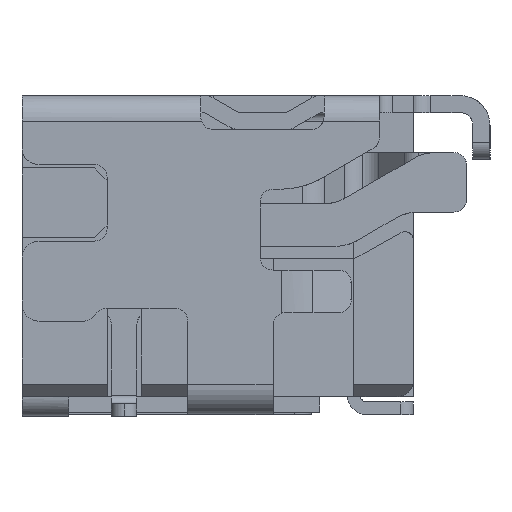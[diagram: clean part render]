
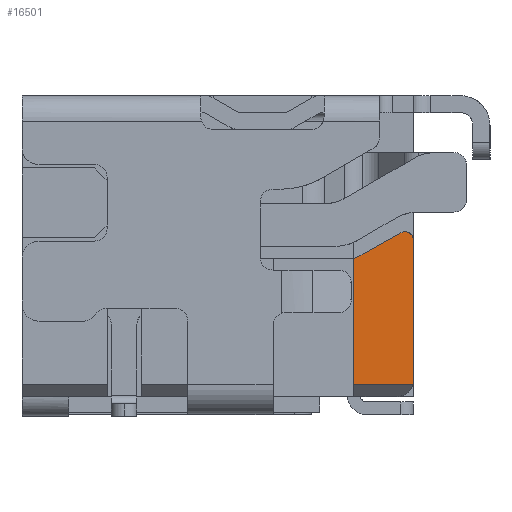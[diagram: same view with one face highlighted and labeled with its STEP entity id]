
A CAD part, left-side view. The second image highlights one B-rep face of the part: STEP entity #16501.
In plain terms, the highlighted planar face has unit normal (-1, 0, 0).
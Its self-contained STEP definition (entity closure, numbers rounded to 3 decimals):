
#3066 = CARTESIAN_POINT ( 'NONE',  ( -5.475, 0.012, 2.098 ) ) ;
#3547 = FACE_OUTER_BOUND ( 'NONE', #26636, .T. ) ;
#4544 = DIRECTION ( 'NONE',  ( 0., 1., 0. ) ) ;
#5639 = DIRECTION ( 'NONE',  ( 0., -1., 0. ) ) ;
#6540 = CARTESIAN_POINT ( 'NONE',  ( -5.475, 0.7, 0.36 ) ) ;
#7147 = CARTESIAN_POINT ( 'NONE',  ( -5.475, 0.332, 2.034 ) ) ;
#7869 = CARTESIAN_POINT ( 'NONE',  ( -5.475, 0.02, 2.11 ) ) ;
#7886 = CARTESIAN_POINT ( 'NONE',  ( -5.475, 0.133, 2.144 ) ) ;
#8250 = ORIENTED_EDGE ( 'NONE', *, *, #55446, .T. ) ;
#10640 = VERTEX_POINT ( 'NONE', #22817 ) ;
#11767 = ORIENTED_EDGE ( 'NONE', *, *, #19992, .F. ) ;
#12072 = B_SPLINE_CURVE_WITH_KNOTS ( 'NONE', 3,
 ( #16799, #58169, #58742, #49461 ),
 .UNSPECIFIED., .F., .F.,
 ( 4, 4 ),
 ( 0., 1. ),
 .UNSPECIFIED. ) ;
#12200 = DIRECTION ( 'NONE',  ( 0., 0., -1. ) ) ;
#12661 = CARTESIAN_POINT ( 'NONE',  ( -5.475, 0.046, 2.137 ) ) ;
#14610 = B_SPLINE_CURVE_WITH_KNOTS ( 'NONE', 3,
 ( #24952, #34240, #7886, #57960 ),
 .UNSPECIFIED., .F., .F.,
 ( 4, 4 ),
 ( 0., 1. ),
 .UNSPECIFIED. ) ;
#15337 = VECTOR ( 'NONE', #30709, 1000. ) ;
#15824 = CARTESIAN_POINT ( 'NONE',  ( -5.475, 0.516, 1.932 ) ) ;
#16107 = CARTESIAN_POINT ( 'NONE',  ( -5.475, 0.7, 1.83 ) ) ;
#16501 = ADVANCED_FACE ( 'NONE', ( #3547 ), #23690, .T. ) ;
#16758 = VERTEX_POINT ( 'NONE', #39866 ) ;
#16799 = CARTESIAN_POINT ( 'NONE',  ( -5.475, 0.006, 0.36 ) ) ;
#17232 = ORIENTED_EDGE ( 'NONE', *, *, #20706, .T. ) ;
#19992 = EDGE_CURVE ( 'NONE', #10640, #31515, #22478, .T. ) ;
#20584 = CARTESIAN_POINT ( 'NONE',  ( -5.475, 0.149, 2.136 ) ) ;
#20706 = EDGE_CURVE ( 'NONE', #16758, #50776, #37558, .T. ) ;
#21248 = EDGE_CURVE ( 'NONE', #31495, #16758, #57713, .T. ) ;
#21641 = CARTESIAN_POINT ( 'NONE',  ( -5.475, 0., 2.062 ) ) ;
#21805 = CARTESIAN_POINT ( 'NONE',  ( -5.475, 0.149, 2.136 ) ) ;
#22478 = B_SPLINE_CURVE_WITH_KNOTS ( 'NONE', 3,
 ( #16107, #15824, #7147, #20584 ),
 .UNSPECIFIED., .F., .F.,
 ( 4, 4 ),
 ( 0., 1. ),
 .UNSPECIFIED. ) ;
#22817 = CARTESIAN_POINT ( 'NONE',  ( -5.475, 0.7, 1.83 ) ) ;
#23690 = PLANE ( 'NONE',  #57743 ) ;
#24248 = ORIENTED_EDGE ( 'NONE', *, *, #21248, .T. ) ;
#24719 = VERTEX_POINT ( 'NONE', #55586 ) ;
#24952 = CARTESIAN_POINT ( 'NONE',  ( -5.475, 0.1, 2.149 ) ) ;
#26135 = CARTESIAN_POINT ( 'NONE',  ( -5.475, 0.1, 2.149 ) ) ;
#26434 = CARTESIAN_POINT ( 'NONE',  ( -5.475, 0.002, 2.075 ) ) ;
#26636 = EDGE_LOOP ( 'NONE', ( #11767, #39774, #59264, #43713, #24248, #17232, #8250 ) ) ;
#27214 = VERTEX_POINT ( 'NONE', #6540 ) ;
#30704 = LINE ( 'NONE', #39115, #53300 ) ;
#30709 = DIRECTION ( 'NONE',  ( 0., 0., 1. ) ) ;
#30927 = CARTESIAN_POINT ( 'NONE',  ( -5.475, 0.073, 2.148 ) ) ;
#31495 = VERTEX_POINT ( 'NONE', #34685 ) ;
#31515 = VERTEX_POINT ( 'NONE', #21805 ) ;
#34240 = CARTESIAN_POINT ( 'NONE',  ( -5.475, 0.117, 2.149 ) ) ;
#34685 = CARTESIAN_POINT ( 'NONE',  ( -5.475, 0., 0.41 ) ) ;
#35535 = LINE ( 'NONE', #53268, #35743 ) ;
#35743 = VECTOR ( 'NONE', #12200, 1000. ) ;
#35840 = EDGE_CURVE ( 'NONE', #10640, #27214, #35535, .T. ) ;
#37558 = B_SPLINE_CURVE_WITH_KNOTS ( 'NONE', 3,
 ( #40203, #21641, #26434, #3066, #7869, #12661, #30927, #26135 ),
 .UNSPECIFIED., .F., .F.,
 ( 4, 2, 2, 4 ),
 ( 0., 0.25, 0.5, 1. ),
 .UNSPECIFIED. ) ;
#39115 = CARTESIAN_POINT ( 'NONE',  ( -5.475, 0.353, 0.36 ) ) ;
#39774 = ORIENTED_EDGE ( 'NONE', *, *, #35840, .T. ) ;
#39866 = CARTESIAN_POINT ( 'NONE',  ( -5.475, 0., 2.049 ) ) ;
#40203 = CARTESIAN_POINT ( 'NONE',  ( -5.475, 0., 2.049 ) ) ;
#40592 = CARTESIAN_POINT ( 'NONE',  ( -5.475, 0., 1.97 ) ) ;
#43713 = ORIENTED_EDGE ( 'NONE', *, *, #45510, .T. ) ;
#45510 = EDGE_CURVE ( 'NONE', #24719, #31495, #12072, .T. ) ;
#49082 = CARTESIAN_POINT ( 'NONE',  ( -5.475, 0.1, 2.149 ) ) ;
#49461 = CARTESIAN_POINT ( 'NONE',  ( -5.475, 0., 0.41 ) ) ;
#50736 = DIRECTION ( 'NONE',  ( -1., 0., 0. ) ) ;
#50776 = VERTEX_POINT ( 'NONE', #49082 ) ;
#51734 = EDGE_CURVE ( 'NONE', #27214, #24719, #30704, .T. ) ;
#53268 = CARTESIAN_POINT ( 'NONE',  ( -5.475, 0.7, 1.395 ) ) ;
#53300 = VECTOR ( 'NONE', #5639, 1000. ) ;
#54944 = CARTESIAN_POINT ( 'NONE',  ( -5.475, -0.016, 1.089 ) ) ;
#55446 = EDGE_CURVE ( 'NONE', #50776, #31515, #14610, .T. ) ;
#55586 = CARTESIAN_POINT ( 'NONE',  ( -5.475, 0.006, 0.36 ) ) ;
#57713 = LINE ( 'NONE', #40592, #15337 ) ;
#57743 = AXIS2_PLACEMENT_3D ( 'NONE', #54944, #50736, #4544 ) ;
#57960 = CARTESIAN_POINT ( 'NONE',  ( -5.475, 0.149, 2.136 ) ) ;
#58169 = CARTESIAN_POINT ( 'NONE',  ( -5.475, 0.002, 0.376 ) ) ;
#58742 = CARTESIAN_POINT ( 'NONE',  ( -5.475, 0., 0.393 ) ) ;
#59264 = ORIENTED_EDGE ( 'NONE', *, *, #51734, .T. ) ;
